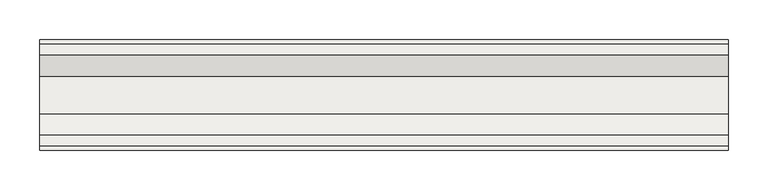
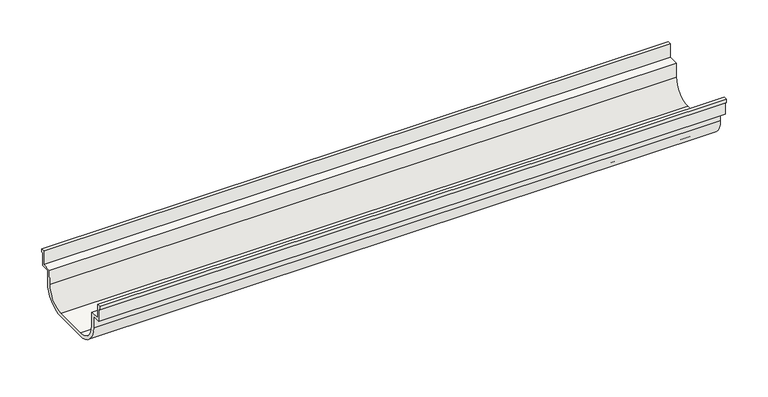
"""IFC4 building model written with IfcOpenShell, lengths in millimetres: slab geometry, ROSA GRES_CRA C1 : Pieza CRA C1."""

from ifc_helpers import new_model, si_unit, point, frame, frame_2d, origin, place, context, project, spatial, polyline, circle_curve, trimmed, segment, composite_curve, outline, extrude, source, transform, mapped, element, save


def slab_b1a4c698(model_context):
    return source(origin(), model_context, "Body", "SweptSolid", [
        extrude(outline(composite_curve([segment(polyline([(0.0, -5.0), (0.0, 0.0), (5.0, 0.0), (5.0, -20.0), (19.0, -20.0), (19.3573264, -40.471215)]), True, "CONTINUOUS"), segment(trimmed(circle_curve(frame_2d((46.3532142, -40.0)), 27.0), [point((19.3573264, -40.471215))], [point((46.3532142, -67.0))], True, "CARTESIAN"), True, "CONTINUOUS"), segment(polyline([(46.3532142, -67.0), (93.6467858, -67.0)]), True, "CONTINUOUS"), segment(trimmed(circle_curve(frame_2d((93.6467858, -40.0)), 27.0), [point((93.6467858, -67.0))], [point((120.6426736, -40.471215))], True, "CARTESIAN"), True, "CONTINUOUS"), segment(polyline([(120.6426736, -40.471215), (121.0, -20.0), (135.0, -20.0), (135.0, 0.0), (140.0, 0.0), (140.0, -5.0), (137.6, -5.0), (137.6, -23.0), (125.4983279, -23.0), (125.1919806, -40.5506234)]), True, "CONTINUOUS"), segment(trimmed(circle_curve(frame_2d((93.6467858, -40.0)), 31.55), [point((125.1919806, -40.5506234))], [point((93.6467858, -71.55))], False, "CARTESIAN"), True, "CONTINUOUS"), segment(polyline([(93.6467858, -71.55), (46.3532142, -71.55)]), True, "CONTINUOUS"), segment(trimmed(circle_curve(frame_2d((46.3532142, -40.0)), 31.55), [point((46.3532142, -71.55))], [point((14.8080194, -40.5506234))], False, "CARTESIAN"), True, "CONTINUOUS"), segment(polyline([(14.8080194, -40.5506234), (14.5016721, -23.0), (2.4, -23.0), (2.4, -5.0), (0.0, -5.0)]), True, "CONTINUOUS")], self_intersect=False)), frame((0.0, 0.0, 0.0), z_axis=(1.0, 0.0, 0.0), x_axis=(0.0, 1.0, 0.0)), (0.0, 0.0, 1.0), 870.7790153),
    ])


if __name__ == "__main__":
    model = new_model("IFC4")
    model_context = context("Model", 3, world=origin())
    ifc_project = project(units=[si_unit("LENGTHUNIT", "METRE", prefix="MILLI")], contexts=[model_context])
    site = spatial("IfcSite", under=ifc_project)
    building = spatial("IfcBuilding", under=site)
    placement = place(None, origin())
    slab_shape = slab_b1a4c698(model_context)
    element("IfcSlab", 1, ObjectType="ROSA GRES_CRA C1 : Pieza CRA C1", at=placement, inside=building, context=model_context, shape_type="MappedRepresentation", body=[
        mapped(slab_shape, transform((0.0, 0.0, 0.0), x_axis=(1.0, 0.0, 0.0), y_axis=(0.0, 1.0, 0.0), z_axis=(0.0, 0.0, 1.0))),
    ])
    save(model, "model.ifc")
